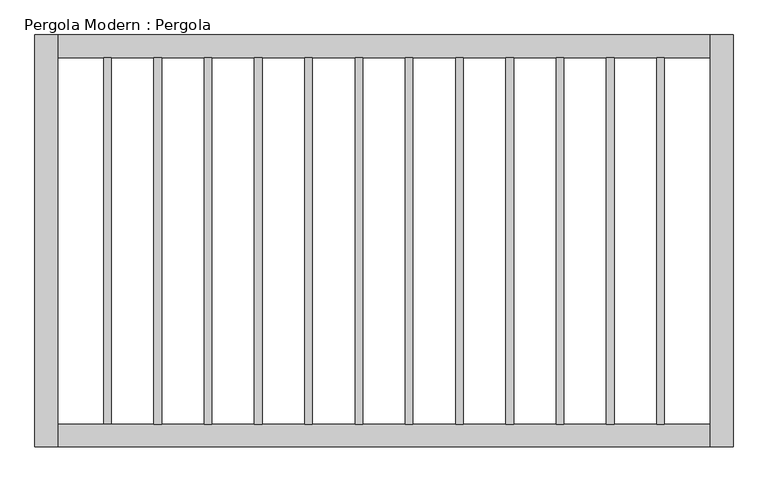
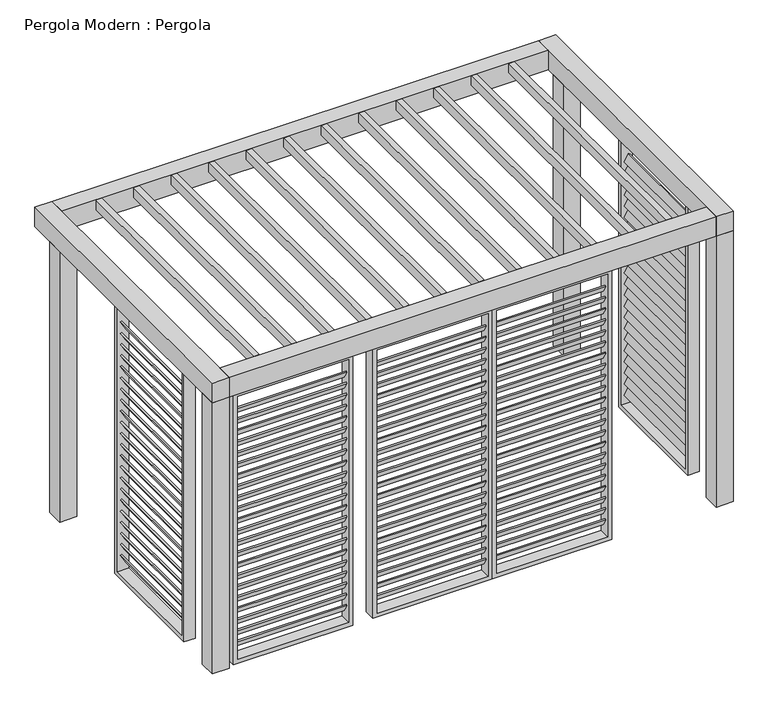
"""IFC4 building model written with IfcOpenShell, lengths in millimetres: proxy geometry, Pergola Modern : Pergola."""

from ifc_helpers import new_model, si_unit, frame, origin, origin_with_axes, place, context, project, spatial, polyline, outline, extrude, source, transform, mapped, element, save


def pergola_modern_pergola_2576f8b5(model_context):
    return source(origin(), model_context, "Body", "SweptSolid", [
        extrude(outline(polyline([(0.0, -12.7), (0.0, 0.0), (990.6, 0.0), (990.6, -12.7), (0.0, -12.7)])), frame((2223.3507387, -850.9, 2221.1032416), z_axis=(0.4999999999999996, 0.0, 0.8660254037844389), x_axis=(0.0, 1.0, 0.0)), (0.0, 0.0, 1.0), 76.2),
        extrude(outline(polyline([(0.0, -12.7), (0.0, 0.0), (990.6, 0.0), (990.6, -12.7), (0.0, -12.7)])), frame((2223.3507387, -850.9, 2116.1770512), z_axis=(0.4999999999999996, 0.0, 0.8660254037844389), x_axis=(0.0, 1.0, 0.0)), (0.0, 0.0, 1.0), 76.2),
        extrude(outline(polyline([(0.0, -12.7), (0.0, 0.0), (990.6, 0.0), (990.6, -12.7), (0.0, -12.7)])), frame((2223.3507387, -850.9, 2011.2508607), z_axis=(0.4999999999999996, 0.0, 0.8660254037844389), x_axis=(0.0, 1.0, 0.0)), (0.0, 0.0, 1.0), 76.2),
        extrude(outline(polyline([(0.0, -12.7), (0.0, 0.0), (990.6, 0.0), (990.6, -12.7), (0.0, -12.7)])), frame((2223.3507387, -850.9, 1906.3246702), z_axis=(0.4999999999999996, 0.0, 0.8660254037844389), x_axis=(0.0, 1.0, 0.0)), (0.0, 0.0, 1.0), 76.2),
        extrude(outline(polyline([(0.0, -12.7), (0.0, 0.0), (990.6, 0.0), (990.6, -12.7), (0.0, -12.7)])), frame((2223.3507387, -850.9, 1801.3984797), z_axis=(0.4999999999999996, 0.0, 0.8660254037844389), x_axis=(0.0, 1.0, 0.0)), (0.0, 0.0, 1.0), 76.2),
        extrude(outline(polyline([(0.0, -12.7), (0.0, 0.0), (990.6, 0.0), (990.6, -12.7), (0.0, -12.7)])), frame((2223.3507387, -850.9, 1696.4722893), z_axis=(0.4999999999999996, 0.0, 0.8660254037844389), x_axis=(0.0, 1.0, 0.0)), (0.0, 0.0, 1.0), 76.2),
        extrude(outline(polyline([(0.0, -12.7), (0.0, 0.0), (990.6, 0.0), (990.6, -12.7), (0.0, -12.7)])), frame((2223.3507387, -850.9, 1591.5460988), z_axis=(0.4999999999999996, 0.0, 0.8660254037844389), x_axis=(0.0, 1.0, 0.0)), (0.0, 0.0, 1.0), 76.2),
        extrude(outline(polyline([(0.0, -12.7), (0.0, 0.0), (990.6, 0.0), (990.6, -12.7), (0.0, -12.7)])), frame((2223.3507387, -850.9, 1486.6199083), z_axis=(0.4999999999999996, 0.0, 0.8660254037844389), x_axis=(0.0, 1.0, 0.0)), (0.0, 0.0, 1.0), 76.2),
        extrude(outline(polyline([(0.0, -12.7), (0.0, 0.0), (990.6, 0.0), (990.6, -12.7), (0.0, -12.7)])), frame((2223.3507387, -850.9, 1381.6937178), z_axis=(0.4999999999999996, 0.0, 0.8660254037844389), x_axis=(0.0, 1.0, 0.0)), (0.0, 0.0, 1.0), 76.2),
        extrude(outline(polyline([(0.0, -12.7), (0.0, 0.0), (990.6, 0.0), (990.6, -12.7), (0.0, -12.7)])), frame((2223.3507387, -850.9, 1276.7675274), z_axis=(0.4999999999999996, 0.0, 0.8660254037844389), x_axis=(0.0, 1.0, 0.0)), (0.0, 0.0, 1.0), 76.2),
        extrude(outline(polyline([(0.0, -12.7), (0.0, 0.0), (990.6, 0.0), (990.6, -12.7), (0.0, -12.7)])), frame((2223.3507387, -850.9, 1171.8413369), z_axis=(0.4999999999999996, 0.0, 0.8660254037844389), x_axis=(0.0, 1.0, 0.0)), (0.0, 0.0, 1.0), 76.2),
        extrude(outline(polyline([(0.0, -12.7), (0.0, 0.0), (990.6, 0.0), (990.6, -12.7), (0.0, -12.7)])), frame((2223.3507387, -850.9, 1066.9151464), z_axis=(0.4999999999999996, 0.0, 0.8660254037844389), x_axis=(0.0, 1.0, 0.0)), (0.0, 0.0, 1.0), 76.2),
        extrude(outline(polyline([(0.0, -12.7), (0.0, 0.0), (990.6, 0.0), (990.6, -12.7), (0.0, -12.7)])), frame((2223.3507387, -850.9, 961.9889559), z_axis=(0.4999999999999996, 0.0, 0.8660254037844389), x_axis=(0.0, 1.0, 0.0)), (0.0, 0.0, 1.0), 76.2),
        extrude(outline(polyline([(0.0, -12.7), (0.0, 0.0), (990.6, 0.0), (990.6, -12.7), (0.0, -12.7)])), frame((2223.3507387, -850.9, 857.0627654), z_axis=(0.4999999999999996, 0.0, 0.8660254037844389), x_axis=(0.0, 1.0, 0.0)), (0.0, 0.0, 1.0), 76.2),
        extrude(outline(polyline([(0.0, -12.7), (0.0, 0.0), (990.6, 0.0), (990.6, -12.7), (0.0, -12.7)])), frame((2223.3507387, -850.9, 752.136575), z_axis=(0.4999999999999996, 0.0, 0.8660254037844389), x_axis=(0.0, 1.0, 0.0)), (0.0, 0.0, 1.0), 76.2),
        extrude(outline(polyline([(0.0, -12.7), (0.0, 0.0), (990.6, 0.0), (990.6, -12.7), (0.0, -12.7)])), frame((2223.3507387, -850.9, 647.2103845), z_axis=(0.4999999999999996, 0.0, 0.8660254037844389), x_axis=(0.0, 1.0, 0.0)), (0.0, 0.0, 1.0), 76.2),
        extrude(outline(polyline([(0.0, -12.7), (0.0, 0.0), (990.6, 0.0), (990.6, -12.7), (0.0, -12.7)])), frame((2223.3507387, -850.9, 542.284194), z_axis=(0.4999999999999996, 0.0, 0.8660254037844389), x_axis=(0.0, 1.0, 0.0)), (0.0, 0.0, 1.0), 76.2),
        extrude(outline(polyline([(0.0, -12.7), (0.0, 0.0), (990.6, 0.0), (990.6, -12.7), (0.0, -12.7)])), frame((2223.3507387, -850.9, 437.3580035), z_axis=(0.4999999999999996, 0.0, 0.8660254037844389), x_axis=(0.0, 1.0, 0.0)), (0.0, 0.0, 1.0), 76.2),
        extrude(outline(polyline([(0.0, -12.7), (0.0, 0.0), (990.6, 0.0), (990.6, -12.7), (0.0, -12.7)])), frame((2223.3507387, -850.9, 332.4318131), z_axis=(0.4999999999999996, 0.0, 0.8660254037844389), x_axis=(0.0, 1.0, 0.0)), (0.0, 0.0, 1.0), 76.2),
        extrude(outline(polyline([(0.0, -12.7), (0.0, 0.0), (990.6, 0.0), (990.6, -12.7), (0.0, -12.7)])), frame((2223.3507387, -850.9, 227.5056226), z_axis=(0.4999999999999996, 0.0, 0.8660254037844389), x_axis=(0.0, 1.0, 0.0)), (0.0, 0.0, 1.0), 76.2),
        extrude(outline(polyline([(0.0, -12.7), (0.0, 0.0), (990.6, 0.0), (990.6, -12.7), (0.0, -12.7)])), frame((2223.3507387, -850.9, 2326.0294321), z_axis=(0.4999999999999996, 0.0, 0.8660254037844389), x_axis=(0.0, 1.0, 0.0)), (0.0, 0.0, 1.0), 76.2),
        extrude(outline(polyline([(0.0, -12.7), (0.0, 0.0), (990.6, 0.0), (990.6, -12.7), (0.0, -12.7)])), frame((2223.3507387, -850.9, 122.5794321), z_axis=(0.4999999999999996, 0.0, 0.8660254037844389), x_axis=(0.0, 1.0, 0.0)), (0.0, 0.0, 1.0), 76.2),
        extrude(outline(polyline([(-889.0, 2559.05), (177.8, 2559.05), (177.8, 0.0), (-889.0, 0.0), (-889.0, 2559.05)]), holes=[polyline([(-850.9, 38.1), (139.7, 38.1), (139.7, 2520.95), (-850.9, 2520.95), (-850.9, 38.1)])]), frame((2197.1, 0.0, 0.0), z_axis=(1.0, 0.0, 0.0), x_axis=(0.0, 1.0, 0.0)), (0.0, 0.0, 1.0), 101.6),
        extrude(outline(polyline([(0.0, -12.7), (0.0, 0.0), (990.6, 0.0), (990.6, -12.7), (0.0, -12.7)])), frame((-2223.3507387, 139.7, 2221.1032416), z_axis=(-0.4999999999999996, 0.0, 0.8660254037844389), x_axis=(0.0, -1.0, 0.0)), (0.0, 0.0, 1.0), 76.2),
        extrude(outline(polyline([(0.0, -12.7), (0.0, 0.0), (990.6, 0.0), (990.6, -12.7), (0.0, -12.7)])), frame((-2223.3507387, 139.7, 2116.1770512), z_axis=(-0.4999999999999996, 0.0, 0.8660254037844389), x_axis=(0.0, -1.0, 0.0)), (0.0, 0.0, 1.0), 76.2),
        extrude(outline(polyline([(0.0, -12.7), (0.0, 0.0), (990.6, 0.0), (990.6, -12.7), (0.0, -12.7)])), frame((-2223.3507387, 139.7, 2011.2508607), z_axis=(-0.4999999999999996, 0.0, 0.8660254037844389), x_axis=(0.0, -1.0, 0.0)), (0.0, 0.0, 1.0), 76.2),
        extrude(outline(polyline([(0.0, -12.7), (0.0, 0.0), (990.6, 0.0), (990.6, -12.7), (0.0, -12.7)])), frame((-2223.3507387, 139.7, 1906.3246702), z_axis=(-0.4999999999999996, 0.0, 0.8660254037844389), x_axis=(0.0, -1.0, 0.0)), (0.0, 0.0, 1.0), 76.2),
        extrude(outline(polyline([(0.0, -12.7), (0.0, 0.0), (990.6, 0.0), (990.6, -12.7), (0.0, -12.7)])), frame((-2223.3507387, 139.7, 1801.3984797), z_axis=(-0.4999999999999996, 0.0, 0.8660254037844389), x_axis=(0.0, -1.0, 0.0)), (0.0, 0.0, 1.0), 76.2),
        extrude(outline(polyline([(0.0, -12.7), (0.0, 0.0), (990.6, 0.0), (990.6, -12.7), (0.0, -12.7)])), frame((-2223.3507387, 139.7, 1696.4722893), z_axis=(-0.4999999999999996, 0.0, 0.8660254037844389), x_axis=(0.0, -1.0, 0.0)), (0.0, 0.0, 1.0), 76.2),
        extrude(outline(polyline([(0.0, -12.7), (0.0, 0.0), (990.6, 0.0), (990.6, -12.7), (0.0, -12.7)])), frame((-2223.3507387, 139.7, 1591.5460988), z_axis=(-0.4999999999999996, 0.0, 0.8660254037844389), x_axis=(0.0, -1.0, 0.0)), (0.0, 0.0, 1.0), 76.2),
        extrude(outline(polyline([(0.0, -12.7), (0.0, 0.0), (990.6, 0.0), (990.6, -12.7), (0.0, -12.7)])), frame((-2223.3507387, 139.7, 1486.6199083), z_axis=(-0.4999999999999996, 0.0, 0.8660254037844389), x_axis=(0.0, -1.0, 0.0)), (0.0, 0.0, 1.0), 76.2),
        extrude(outline(polyline([(0.0, -12.7), (0.0, 0.0), (990.6, 0.0), (990.6, -12.7), (0.0, -12.7)])), frame((-2223.3507387, 139.7, 1381.6937178), z_axis=(-0.4999999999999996, 0.0, 0.8660254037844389), x_axis=(0.0, -1.0, 0.0)), (0.0, 0.0, 1.0), 76.2),
        extrude(outline(polyline([(0.0, -12.7), (0.0, 0.0), (990.6, 0.0), (990.6, -12.7), (0.0, -12.7)])), frame((-2223.3507387, 139.7, 1276.7675274), z_axis=(-0.4999999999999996, 0.0, 0.8660254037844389), x_axis=(0.0, -1.0, 0.0)), (0.0, 0.0, 1.0), 76.2),
        extrude(outline(polyline([(0.0, -12.7), (0.0, 0.0), (990.6, 0.0), (990.6, -12.7), (0.0, -12.7)])), frame((-2223.3507387, 139.7, 1171.8413369), z_axis=(-0.4999999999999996, 0.0, 0.8660254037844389), x_axis=(0.0, -1.0, 0.0)), (0.0, 0.0, 1.0), 76.2),
        extrude(outline(polyline([(0.0, -12.7), (0.0, 0.0), (990.6, 0.0), (990.6, -12.7), (0.0, -12.7)])), frame((-2223.3507387, 139.7, 1066.9151464), z_axis=(-0.4999999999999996, 0.0, 0.8660254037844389), x_axis=(0.0, -1.0, 0.0)), (0.0, 0.0, 1.0), 76.2),
        extrude(outline(polyline([(0.0, -12.7), (0.0, 0.0), (990.6, 0.0), (990.6, -12.7), (0.0, -12.7)])), frame((-2223.3507387, 139.7, 961.9889559), z_axis=(-0.4999999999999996, 0.0, 0.8660254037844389), x_axis=(0.0, -1.0, 0.0)), (0.0, 0.0, 1.0), 76.2),
        extrude(outline(polyline([(0.0, -12.7), (0.0, 0.0), (990.6, 0.0), (990.6, -12.7), (0.0, -12.7)])), frame((-2223.3507387, 139.7, 857.0627654), z_axis=(-0.4999999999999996, 0.0, 0.8660254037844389), x_axis=(0.0, -1.0, 0.0)), (0.0, 0.0, 1.0), 76.2),
        extrude(outline(polyline([(0.0, -12.7), (0.0, 0.0), (990.6, 0.0), (990.6, -12.7), (0.0, -12.7)])), frame((-2223.3507387, 139.7, 752.136575), z_axis=(-0.4999999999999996, 0.0, 0.8660254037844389), x_axis=(0.0, -1.0, 0.0)), (0.0, 0.0, 1.0), 76.2),
        extrude(outline(polyline([(0.0, -12.7), (0.0, 0.0), (990.6, 0.0), (990.6, -12.7), (0.0, -12.7)])), frame((-2223.3507387, 139.7, 647.2103845), z_axis=(-0.4999999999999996, 0.0, 0.8660254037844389), x_axis=(0.0, -1.0, 0.0)), (0.0, 0.0, 1.0), 76.2),
        extrude(outline(polyline([(0.0, -12.7), (0.0, 0.0), (990.6, 0.0), (990.6, -12.7), (0.0, -12.7)])), frame((-2223.3507387, 139.7, 542.284194), z_axis=(-0.4999999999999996, 0.0, 0.8660254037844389), x_axis=(0.0, -1.0, 0.0)), (0.0, 0.0, 1.0), 76.2),
        extrude(outline(polyline([(0.0, -12.7), (0.0, 0.0), (990.6, 0.0), (990.6, -12.7), (0.0, -12.7)])), frame((-2223.3507387, 139.7, 437.3580035), z_axis=(-0.4999999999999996, 0.0, 0.8660254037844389), x_axis=(0.0, -1.0, 0.0)), (0.0, 0.0, 1.0), 76.2),
        extrude(outline(polyline([(0.0, -12.7), (0.0, 0.0), (990.6, 0.0), (990.6, -12.7), (0.0, -12.7)])), frame((-2223.3507387, 139.7, 332.4318131), z_axis=(-0.4999999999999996, 0.0, 0.8660254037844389), x_axis=(0.0, -1.0, 0.0)), (0.0, 0.0, 1.0), 76.2),
        extrude(outline(polyline([(0.0, -12.7), (0.0, 0.0), (990.6, 0.0), (990.6, -12.7), (0.0, -12.7)])), frame((-2223.3507387, 139.7, 227.5056226), z_axis=(-0.4999999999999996, 0.0, 0.8660254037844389), x_axis=(0.0, -1.0, 0.0)), (0.0, 0.0, 1.0), 76.2),
        extrude(outline(polyline([(0.0, -12.7), (0.0, 0.0), (990.6, 0.0), (990.6, -12.7), (0.0, -12.7)])), frame((-2223.3507387, 139.7, 2326.0294321), z_axis=(-0.4999999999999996, 0.0, 0.8660254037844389), x_axis=(0.0, -1.0, 0.0)), (0.0, 0.0, 1.0), 76.2),
        extrude(outline(polyline([(0.0, -12.7), (0.0, 0.0), (990.6, 0.0), (990.6, -12.7), (0.0, -12.7)])), frame((-2223.3507387, 139.7, 122.5794321), z_axis=(-0.4999999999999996, 0.0, 0.8660254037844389), x_axis=(0.0, -1.0, 0.0)), (0.0, 0.0, 1.0), 76.2),
        extrude(outline(polyline([(177.8, 0.0), (-889.0, 0.0), (-889.0, 2559.05), (177.8, 2559.05), (177.8, 0.0)]), holes=[polyline([(139.7, 2520.95), (-850.9, 2520.95), (-850.9, 38.1), (139.7, 38.1), (139.7, 2520.95)])]), frame((-2298.7, 0.0, 0.0), z_axis=(1.0, 0.0, 0.0), x_axis=(0.0, 1.0, 0.0)), (0.0, 0.0, 1.0), 101.6),
        extrude(outline(polyline([(0.0, 12.7), (990.6, 12.7), (990.6, 0.0), (0.0, 0.0), (0.0, 12.7)])), frame((1219.2, -1270.8507387, 2221.1032416), z_axis=(0.0, -0.4999999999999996, 0.8660254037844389), x_axis=(-1.0, 0.0, 0.0)), (0.0, 0.0, 1.0), 76.2),
        extrude(outline(polyline([(0.0, 12.7), (990.6, 12.7), (990.6, 0.0), (0.0, 0.0), (0.0, 12.7)])), frame((1219.2, -1270.8507387, 2116.1770512), z_axis=(0.0, -0.4999999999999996, 0.8660254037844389), x_axis=(-1.0, 0.0, 0.0)), (0.0, 0.0, 1.0), 76.2),
        extrude(outline(polyline([(0.0, 12.7), (990.6, 12.7), (990.6, 0.0), (0.0, 0.0), (0.0, 12.7)])), frame((1219.2, -1270.8507387, 2011.2508607), z_axis=(0.0, -0.4999999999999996, 0.8660254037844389), x_axis=(-1.0, 0.0, 0.0)), (0.0, 0.0, 1.0), 76.2),
        extrude(outline(polyline([(0.0, 12.7), (990.6, 12.7), (990.6, 0.0), (0.0, 0.0), (0.0, 12.7)])), frame((1219.2, -1270.8507387, 1906.3246702), z_axis=(0.0, -0.4999999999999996, 0.8660254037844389), x_axis=(-1.0, 0.0, 0.0)), (0.0, 0.0, 1.0), 76.2),
        extrude(outline(polyline([(0.0, 12.7), (990.6, 12.7), (990.6, 0.0), (0.0, 0.0), (0.0, 12.7)])), frame((1219.2, -1270.8507387, 1801.3984797), z_axis=(0.0, -0.4999999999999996, 0.8660254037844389), x_axis=(-1.0, 0.0, 0.0)), (0.0, 0.0, 1.0), 76.2),
        extrude(outline(polyline([(0.0, 12.7), (990.6, 12.7), (990.6, 0.0), (0.0, 0.0), (0.0, 12.7)])), frame((1219.2, -1270.8507387, 1696.4722893), z_axis=(0.0, -0.4999999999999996, 0.8660254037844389), x_axis=(-1.0, 0.0, 0.0)), (0.0, 0.0, 1.0), 76.2),
        extrude(outline(polyline([(0.0, 12.7), (990.6, 12.7), (990.6, 0.0), (0.0, 0.0), (0.0, 12.7)])), frame((1219.2, -1270.8507387, 1591.5460988), z_axis=(0.0, -0.4999999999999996, 0.8660254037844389), x_axis=(-1.0, 0.0, 0.0)), (0.0, 0.0, 1.0), 76.2),
        extrude(outline(polyline([(0.0, 12.7), (990.6, 12.7), (990.6, 0.0), (0.0, 0.0), (0.0, 12.7)])), frame((1219.2, -1270.8507387, 1486.6199083), z_axis=(0.0, -0.4999999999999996, 0.8660254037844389), x_axis=(-1.0, 0.0, 0.0)), (0.0, 0.0, 1.0), 76.2),
        extrude(outline(polyline([(0.0, 12.7), (990.6, 12.7), (990.6, 0.0), (0.0, 0.0), (0.0, 12.7)])), frame((1219.2, -1270.8507387, 1381.6937178), z_axis=(0.0, -0.4999999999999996, 0.8660254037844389), x_axis=(-1.0, 0.0, 0.0)), (0.0, 0.0, 1.0), 76.2),
        extrude(outline(polyline([(0.0, 12.7), (990.6, 12.7), (990.6, 0.0), (0.0, 0.0), (0.0, 12.7)])), frame((1219.2, -1270.8507387, 1276.7675274), z_axis=(0.0, -0.4999999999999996, 0.8660254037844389), x_axis=(-1.0, 0.0, 0.0)), (0.0, 0.0, 1.0), 76.2),
        extrude(outline(polyline([(0.0, 12.7), (990.6, 12.7), (990.6, 0.0), (0.0, 0.0), (0.0, 12.7)])), frame((1219.2, -1270.8507387, 1171.8413369), z_axis=(0.0, -0.4999999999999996, 0.8660254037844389), x_axis=(-1.0, 0.0, 0.0)), (0.0, 0.0, 1.0), 76.2),
        extrude(outline(polyline([(0.0, 12.7), (990.6, 12.7), (990.6, 0.0), (0.0, 0.0), (0.0, 12.7)])), frame((1219.2, -1270.8507387, 1066.9151464), z_axis=(0.0, -0.4999999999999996, 0.8660254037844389), x_axis=(-1.0, 0.0, 0.0)), (0.0, 0.0, 1.0), 76.2),
        extrude(outline(polyline([(0.0, 12.7), (990.6, 12.7), (990.6, 0.0), (0.0, 0.0), (0.0, 12.7)])), frame((1219.2, -1270.8507387, 961.9889559), z_axis=(0.0, -0.4999999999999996, 0.8660254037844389), x_axis=(-1.0, 0.0, 0.0)), (0.0, 0.0, 1.0), 76.2),
        extrude(outline(polyline([(0.0, 12.7), (990.6, 12.7), (990.6, 0.0), (0.0, 0.0), (0.0, 12.7)])), frame((1219.2, -1270.8507387, 857.0627654), z_axis=(0.0, -0.4999999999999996, 0.8660254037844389), x_axis=(-1.0, 0.0, 0.0)), (0.0, 0.0, 1.0), 76.2),
        extrude(outline(polyline([(0.0, 12.7), (990.6, 12.7), (990.6, 0.0), (0.0, 0.0), (0.0, 12.7)])), frame((1219.2, -1270.8507387, 752.136575), z_axis=(0.0, -0.4999999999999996, 0.8660254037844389), x_axis=(-1.0, 0.0, 0.0)), (0.0, 0.0, 1.0), 76.2),
        extrude(outline(polyline([(0.0, 12.7), (990.6, 12.7), (990.6, 0.0), (0.0, 0.0), (0.0, 12.7)])), frame((1219.2, -1270.8507387, 647.2103845), z_axis=(0.0, -0.4999999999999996, 0.8660254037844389), x_axis=(-1.0, 0.0, 0.0)), (0.0, 0.0, 1.0), 76.2),
        extrude(outline(polyline([(0.0, 12.7), (990.6, 12.7), (990.6, 0.0), (0.0, 0.0), (0.0, 12.7)])), frame((1219.2, -1270.8507387, 542.284194), z_axis=(0.0, -0.4999999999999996, 0.8660254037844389), x_axis=(-1.0, 0.0, 0.0)), (0.0, 0.0, 1.0), 76.2),
        extrude(outline(polyline([(0.0, 12.7), (990.6, 12.7), (990.6, 0.0), (0.0, 0.0), (0.0, 12.7)])), frame((1219.2, -1270.8507387, 437.3580035), z_axis=(0.0, -0.4999999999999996, 0.8660254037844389), x_axis=(-1.0, 0.0, 0.0)), (0.0, 0.0, 1.0), 76.2),
        extrude(outline(polyline([(0.0, 12.7), (990.6, 12.7), (990.6, 0.0), (0.0, 0.0), (0.0, 12.7)])), frame((1219.2, -1270.8507387, 332.4318131), z_axis=(0.0, -0.4999999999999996, 0.8660254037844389), x_axis=(-1.0, 0.0, 0.0)), (0.0, 0.0, 1.0), 76.2),
        extrude(outline(polyline([(0.0, 12.7), (990.6, 12.7), (990.6, 0.0), (0.0, 0.0), (0.0, 12.7)])), frame((1219.2, -1270.8507387, 227.5056226), z_axis=(0.0, -0.4999999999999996, 0.8660254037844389), x_axis=(-1.0, 0.0, 0.0)), (0.0, 0.0, 1.0), 76.2),
        extrude(outline(polyline([(0.0, 12.7), (990.6, 12.7), (990.6, 0.0), (0.0, 0.0), (0.0, 12.7)])), frame((1219.2, -1270.8507387, 2326.0294321), z_axis=(0.0, -0.4999999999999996, 0.8660254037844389), x_axis=(-1.0, 0.0, 0.0)), (0.0, 0.0, 1.0), 76.2),
        extrude(outline(polyline([(0.0, 12.7), (990.6, 12.7), (990.6, 0.0), (0.0, 0.0), (0.0, 12.7)])), frame((1219.2, -1270.8507387, 122.5794321), z_axis=(0.0, -0.4999999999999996, 0.8660254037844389), x_axis=(-1.0, 0.0, 0.0)), (0.0, 0.0, 1.0), 76.2),
        extrude(outline(polyline([(0.0, 1257.3), (2559.05, 1257.3), (2559.05, 190.5), (0.0, 190.5), (0.0, 1257.3)]), holes=[polyline([(2520.95, 1219.2), (38.1, 1219.2), (38.1, 228.6), (2520.95, 228.6), (2520.95, 1219.2)])]), frame((0.0, -1346.2, 0.0), z_axis=(0.0, 1.0, 0.0), x_axis=(0.0, 0.0, 1.0)), (0.0, 0.0, 1.0), 101.6),
        extrude(outline(polyline([(0.0, 12.7), (990.6, 12.7), (990.6, 0.0), (0.0, 0.0), (0.0, 12.7)])), frame((152.4, -1270.8507387, 2221.1032416), z_axis=(0.0, -0.4999999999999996, 0.8660254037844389), x_axis=(-1.0, 0.0, 0.0)), (0.0, 0.0, 1.0), 76.2),
        extrude(outline(polyline([(0.0, 12.7), (990.6, 12.7), (990.6, 0.0), (0.0, 0.0), (0.0, 12.7)])), frame((152.4, -1270.8507387, 2116.1770512), z_axis=(0.0, -0.4999999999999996, 0.8660254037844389), x_axis=(-1.0, 0.0, 0.0)), (0.0, 0.0, 1.0), 76.2),
        extrude(outline(polyline([(0.0, 12.7), (990.6, 12.7), (990.6, 0.0), (0.0, 0.0), (0.0, 12.7)])), frame((152.4, -1270.8507387, 2011.2508607), z_axis=(0.0, -0.4999999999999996, 0.8660254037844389), x_axis=(-1.0, 0.0, 0.0)), (0.0, 0.0, 1.0), 76.2),
        extrude(outline(polyline([(0.0, 12.7), (990.6, 12.7), (990.6, 0.0), (0.0, 0.0), (0.0, 12.7)])), frame((152.4, -1270.8507387, 1906.3246702), z_axis=(0.0, -0.4999999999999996, 0.8660254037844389), x_axis=(-1.0, 0.0, 0.0)), (0.0, 0.0, 1.0), 76.2),
        extrude(outline(polyline([(0.0, 12.7), (990.6, 12.7), (990.6, 0.0), (0.0, 0.0), (0.0, 12.7)])), frame((152.4, -1270.8507387, 1801.3984797), z_axis=(0.0, -0.4999999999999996, 0.8660254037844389), x_axis=(-1.0, 0.0, 0.0)), (0.0, 0.0, 1.0), 76.2),
        extrude(outline(polyline([(0.0, 12.7), (990.6, 12.7), (990.6, 0.0), (0.0, 0.0), (0.0, 12.7)])), frame((152.4, -1270.8507387, 1696.4722893), z_axis=(0.0, -0.4999999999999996, 0.8660254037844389), x_axis=(-1.0, 0.0, 0.0)), (0.0, 0.0, 1.0), 76.2),
        extrude(outline(polyline([(0.0, 12.7), (990.6, 12.7), (990.6, 0.0), (0.0, 0.0), (0.0, 12.7)])), frame((152.4, -1270.8507387, 1591.5460988), z_axis=(0.0, -0.4999999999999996, 0.8660254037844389), x_axis=(-1.0, 0.0, 0.0)), (0.0, 0.0, 1.0), 76.2),
        extrude(outline(polyline([(0.0, 12.7), (990.6, 12.7), (990.6, 0.0), (0.0, 0.0), (0.0, 12.7)])), frame((152.4, -1270.8507387, 1486.6199083), z_axis=(0.0, -0.4999999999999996, 0.8660254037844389), x_axis=(-1.0, 0.0, 0.0)), (0.0, 0.0, 1.0), 76.2),
        extrude(outline(polyline([(0.0, 12.7), (990.6, 12.7), (990.6, 0.0), (0.0, 0.0), (0.0, 12.7)])), frame((152.4, -1270.8507387, 1381.6937178), z_axis=(0.0, -0.4999999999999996, 0.8660254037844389), x_axis=(-1.0, 0.0, 0.0)), (0.0, 0.0, 1.0), 76.2),
        extrude(outline(polyline([(0.0, 12.7), (990.6, 12.7), (990.6, 0.0), (0.0, 0.0), (0.0, 12.7)])), frame((152.4, -1270.8507387, 1276.7675274), z_axis=(0.0, -0.4999999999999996, 0.8660254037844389), x_axis=(-1.0, 0.0, 0.0)), (0.0, 0.0, 1.0), 76.2),
        extrude(outline(polyline([(0.0, 12.7), (990.6, 12.7), (990.6, 0.0), (0.0, 0.0), (0.0, 12.7)])), frame((152.4, -1270.8507387, 1171.8413369), z_axis=(0.0, -0.4999999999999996, 0.8660254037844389), x_axis=(-1.0, 0.0, 0.0)), (0.0, 0.0, 1.0), 76.2),
        extrude(outline(polyline([(0.0, 12.7), (990.6, 12.7), (990.6, 0.0), (0.0, 0.0), (0.0, 12.7)])), frame((152.4, -1270.8507387, 1066.9151464), z_axis=(0.0, -0.4999999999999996, 0.8660254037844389), x_axis=(-1.0, 0.0, 0.0)), (0.0, 0.0, 1.0), 76.2),
        extrude(outline(polyline([(0.0, 12.7), (990.6, 12.7), (990.6, 0.0), (0.0, 0.0), (0.0, 12.7)])), frame((152.4, -1270.8507387, 961.9889559), z_axis=(0.0, -0.4999999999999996, 0.8660254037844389), x_axis=(-1.0, 0.0, 0.0)), (0.0, 0.0, 1.0), 76.2),
        extrude(outline(polyline([(0.0, 12.7), (990.6, 12.7), (990.6, 0.0), (0.0, 0.0), (0.0, 12.7)])), frame((152.4, -1270.8507387, 857.0627654), z_axis=(0.0, -0.4999999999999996, 0.8660254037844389), x_axis=(-1.0, 0.0, 0.0)), (0.0, 0.0, 1.0), 76.2),
        extrude(outline(polyline([(0.0, 12.7), (990.6, 12.7), (990.6, 0.0), (0.0, 0.0), (0.0, 12.7)])), frame((152.4, -1270.8507387, 752.136575), z_axis=(0.0, -0.4999999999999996, 0.8660254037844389), x_axis=(-1.0, 0.0, 0.0)), (0.0, 0.0, 1.0), 76.2),
        extrude(outline(polyline([(0.0, 12.7), (990.6, 12.7), (990.6, 0.0), (0.0, 0.0), (0.0, 12.7)])), frame((152.4, -1270.8507387, 647.2103845), z_axis=(0.0, -0.4999999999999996, 0.8660254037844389), x_axis=(-1.0, 0.0, 0.0)), (0.0, 0.0, 1.0), 76.2),
        extrude(outline(polyline([(0.0, 12.7), (990.6, 12.7), (990.6, 0.0), (0.0, 0.0), (0.0, 12.7)])), frame((152.4, -1270.8507387, 542.284194), z_axis=(0.0, -0.4999999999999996, 0.8660254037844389), x_axis=(-1.0, 0.0, 0.0)), (0.0, 0.0, 1.0), 76.2),
        extrude(outline(polyline([(0.0, 12.7), (990.6, 12.7), (990.6, 0.0), (0.0, 0.0), (0.0, 12.7)])), frame((152.4, -1270.8507387, 437.3580035), z_axis=(0.0, -0.4999999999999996, 0.8660254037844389), x_axis=(-1.0, 0.0, 0.0)), (0.0, 0.0, 1.0), 76.2),
        extrude(outline(polyline([(0.0, 12.7), (990.6, 12.7), (990.6, 0.0), (0.0, 0.0), (0.0, 12.7)])), frame((152.4, -1270.8507387, 332.4318131), z_axis=(0.0, -0.4999999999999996, 0.8660254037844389), x_axis=(-1.0, 0.0, 0.0)), (0.0, 0.0, 1.0), 76.2),
        extrude(outline(polyline([(0.0, 12.7), (990.6, 12.7), (990.6, 0.0), (0.0, 0.0), (0.0, 12.7)])), frame((152.4, -1270.8507387, 227.5056226), z_axis=(0.0, -0.4999999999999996, 0.8660254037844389), x_axis=(-1.0, 0.0, 0.0)), (0.0, 0.0, 1.0), 76.2),
        extrude(outline(polyline([(0.0, 12.7), (990.6, 12.7), (990.6, 0.0), (0.0, 0.0), (0.0, 12.7)])), frame((152.4, -1270.8507387, 2326.0294321), z_axis=(0.0, -0.4999999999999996, 0.8660254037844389), x_axis=(-1.0, 0.0, 0.0)), (0.0, 0.0, 1.0), 76.2),
        extrude(outline(polyline([(0.0, 12.7), (990.6, 12.7), (990.6, 0.0), (0.0, 0.0), (0.0, 12.7)])), frame((152.4, -1270.8507387, 122.5794321), z_axis=(0.0, -0.4999999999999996, 0.8660254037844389), x_axis=(-1.0, 0.0, 0.0)), (0.0, 0.0, 1.0), 76.2),
        extrude(outline(polyline([(0.0, 190.5), (2559.05, 190.5), (2559.05, -876.3), (0.0, -876.3), (0.0, 190.5)]), holes=[polyline([(2520.95, 152.4), (38.1, 152.4), (38.1, -838.2), (2520.95, -838.2), (2520.95, 152.4)])]), frame((0.0, -1346.2, 0.0), z_axis=(0.0, 1.0, 0.0), x_axis=(0.0, 0.0, 1.0)), (0.0, 0.0, 1.0), 101.6),
        extrude(outline(polyline([(0.0, 12.7), (990.6, 12.7), (990.6, 0.0), (0.0, 0.0), (0.0, 12.7)])), frame((-1092.2, -1270.8507387, 2221.1032416), z_axis=(0.0, -0.4999999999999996, 0.8660254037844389), x_axis=(-1.0, 0.0, 0.0)), (0.0, 0.0, 1.0), 76.2),
        extrude(outline(polyline([(0.0, 12.7), (990.6, 12.7), (990.6, 0.0), (0.0, 0.0), (0.0, 12.7)])), frame((-1092.2, -1270.8507387, 2116.1770512), z_axis=(0.0, -0.4999999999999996, 0.8660254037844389), x_axis=(-1.0, 0.0, 0.0)), (0.0, 0.0, 1.0), 76.2),
        extrude(outline(polyline([(0.0, 12.7), (990.6, 12.7), (990.6, 0.0), (0.0, 0.0), (0.0, 12.7)])), frame((-1092.2, -1270.8507387, 2011.2508607), z_axis=(0.0, -0.4999999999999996, 0.8660254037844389), x_axis=(-1.0, 0.0, 0.0)), (0.0, 0.0, 1.0), 76.2),
        extrude(outline(polyline([(0.0, 12.7), (990.6, 12.7), (990.6, 0.0), (0.0, 0.0), (0.0, 12.7)])), frame((-1092.2, -1270.8507387, 1906.3246702), z_axis=(0.0, -0.4999999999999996, 0.8660254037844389), x_axis=(-1.0, 0.0, 0.0)), (0.0, 0.0, 1.0), 76.2),
        extrude(outline(polyline([(0.0, 12.7), (990.6, 12.7), (990.6, 0.0), (0.0, 0.0), (0.0, 12.7)])), frame((-1092.2, -1270.8507387, 1801.3984797), z_axis=(0.0, -0.4999999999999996, 0.8660254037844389), x_axis=(-1.0, 0.0, 0.0)), (0.0, 0.0, 1.0), 76.2),
        extrude(outline(polyline([(0.0, 12.7), (990.6, 12.7), (990.6, 0.0), (0.0, 0.0), (0.0, 12.7)])), frame((-1092.2, -1270.8507387, 1696.4722893), z_axis=(0.0, -0.4999999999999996, 0.8660254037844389), x_axis=(-1.0, 0.0, 0.0)), (0.0, 0.0, 1.0), 76.2),
        extrude(outline(polyline([(0.0, 12.7), (990.6, 12.7), (990.6, 0.0), (0.0, 0.0), (0.0, 12.7)])), frame((-1092.2, -1270.8507387, 1591.5460988), z_axis=(0.0, -0.4999999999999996, 0.8660254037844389), x_axis=(-1.0, 0.0, 0.0)), (0.0, 0.0, 1.0), 76.2),
        extrude(outline(polyline([(0.0, 12.7), (990.6, 12.7), (990.6, 0.0), (0.0, 0.0), (0.0, 12.7)])), frame((-1092.2, -1270.8507387, 1486.6199083), z_axis=(0.0, -0.4999999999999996, 0.8660254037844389), x_axis=(-1.0, 0.0, 0.0)), (0.0, 0.0, 1.0), 76.2),
        extrude(outline(polyline([(0.0, 12.7), (990.6, 12.7), (990.6, 0.0), (0.0, 0.0), (0.0, 12.7)])), frame((-1092.2, -1270.8507387, 1381.6937178), z_axis=(0.0, -0.4999999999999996, 0.8660254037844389), x_axis=(-1.0, 0.0, 0.0)), (0.0, 0.0, 1.0), 76.2),
        extrude(outline(polyline([(0.0, 12.7), (990.6, 12.7), (990.6, 0.0), (0.0, 0.0), (0.0, 12.7)])), frame((-1092.2, -1270.8507387, 1276.7675274), z_axis=(0.0, -0.4999999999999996, 0.8660254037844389), x_axis=(-1.0, 0.0, 0.0)), (0.0, 0.0, 1.0), 76.2),
        extrude(outline(polyline([(0.0, 12.7), (990.6, 12.7), (990.6, 0.0), (0.0, 0.0), (0.0, 12.7)])), frame((-1092.2, -1270.8507387, 1171.8413369), z_axis=(0.0, -0.4999999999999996, 0.8660254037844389), x_axis=(-1.0, 0.0, 0.0)), (0.0, 0.0, 1.0), 76.2),
        extrude(outline(polyline([(0.0, 12.7), (990.6, 12.7), (990.6, 0.0), (0.0, 0.0), (0.0, 12.7)])), frame((-1092.2, -1270.8507387, 1066.9151464), z_axis=(0.0, -0.4999999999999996, 0.8660254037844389), x_axis=(-1.0, 0.0, 0.0)), (0.0, 0.0, 1.0), 76.2),
        extrude(outline(polyline([(0.0, 12.7), (990.6, 12.7), (990.6, 0.0), (0.0, 0.0), (0.0, 12.7)])), frame((-1092.2, -1270.8507387, 961.9889559), z_axis=(0.0, -0.4999999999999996, 0.8660254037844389), x_axis=(-1.0, 0.0, 0.0)), (0.0, 0.0, 1.0), 76.2),
        extrude(outline(polyline([(0.0, 12.7), (990.6, 12.7), (990.6, 0.0), (0.0, 0.0), (0.0, 12.7)])), frame((-1092.2, -1270.8507387, 857.0627654), z_axis=(0.0, -0.4999999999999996, 0.8660254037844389), x_axis=(-1.0, 0.0, 0.0)), (0.0, 0.0, 1.0), 76.2),
        extrude(outline(polyline([(0.0, 12.7), (990.6, 12.7), (990.6, 0.0), (0.0, 0.0), (0.0, 12.7)])), frame((-1092.2, -1270.8507387, 752.136575), z_axis=(0.0, -0.4999999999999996, 0.8660254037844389), x_axis=(-1.0, 0.0, 0.0)), (0.0, 0.0, 1.0), 76.2),
        extrude(outline(polyline([(0.0, 12.7), (990.6, 12.7), (990.6, 0.0), (0.0, 0.0), (0.0, 12.7)])), frame((-1092.2, -1270.8507387, 647.2103845), z_axis=(0.0, -0.4999999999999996, 0.8660254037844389), x_axis=(-1.0, 0.0, 0.0)), (0.0, 0.0, 1.0), 76.2),
        extrude(outline(polyline([(0.0, 12.7), (990.6, 12.7), (990.6, 0.0), (0.0, 0.0), (0.0, 12.7)])), frame((-1092.2, -1270.8507387, 542.284194), z_axis=(0.0, -0.4999999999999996, 0.8660254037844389), x_axis=(-1.0, 0.0, 0.0)), (0.0, 0.0, 1.0), 76.2),
        extrude(outline(polyline([(0.0, 12.7), (990.6, 12.7), (990.6, 0.0), (0.0, 0.0), (0.0, 12.7)])), frame((-1092.2, -1270.8507387, 437.3580035), z_axis=(0.0, -0.4999999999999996, 0.8660254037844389), x_axis=(-1.0, 0.0, 0.0)), (0.0, 0.0, 1.0), 76.2),
        extrude(outline(polyline([(0.0, 12.7), (990.6, 12.7), (990.6, 0.0), (0.0, 0.0), (0.0, 12.7)])), frame((-1092.2, -1270.8507387, 332.4318131), z_axis=(0.0, -0.4999999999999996, 0.8660254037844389), x_axis=(-1.0, 0.0, 0.0)), (0.0, 0.0, 1.0), 76.2),
        extrude(outline(polyline([(0.0, 12.7), (990.6, 12.7), (990.6, 0.0), (0.0, 0.0), (0.0, 12.7)])), frame((-1092.2, -1270.8507387, 227.5056226), z_axis=(0.0, -0.4999999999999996, 0.8660254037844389), x_axis=(-1.0, 0.0, 0.0)), (0.0, 0.0, 1.0), 76.2),
        extrude(outline(polyline([(0.0, 12.7), (990.6, 12.7), (990.6, 0.0), (0.0, 0.0), (0.0, 12.7)])), frame((-1092.2, -1270.8507387, 2326.0294321), z_axis=(0.0, -0.4999999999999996, 0.8660254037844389), x_axis=(-1.0, 0.0, 0.0)), (0.0, 0.0, 1.0), 76.2),
        extrude(outline(polyline([(0.0, 12.7), (990.6, 12.7), (990.6, 0.0), (0.0, 0.0), (0.0, 12.7)])), frame((-1092.2, -1270.8507387, 122.5794321), z_axis=(0.0, -0.4999999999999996, 0.8660254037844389), x_axis=(-1.0, 0.0, 0.0)), (0.0, 0.0, 1.0), 76.2),
        extrude(outline(polyline([(0.0, -1054.1), (2559.05, -1054.1), (2559.05, -2120.9), (0.0, -2120.9), (0.0, -1054.1)]), holes=[polyline([(2520.95, -1092.2), (38.1, -1092.2), (38.1, -2082.8), (2520.95, -2082.8), (2520.95, -1092.2)])]), frame((0.0, -1346.2, 0.0), z_axis=(0.0, 1.0, 0.0), x_axis=(0.0, 0.0, 1.0)), (0.0, 0.0, 1.0), 101.6),
        extrude(outline(polyline([(2171.7, 1371.6), (2324.1, 1371.6), (2324.1, -1371.6), (2171.7, -1371.6), (2171.7, 1371.6)])), frame((0.0, 0.0, 2559.05), z_axis=(0.0, 0.0, 1.0), x_axis=(1.0, 0.0, 0.0)), (0.0, 0.0, 1.0), 184.15),
        extrude(outline(polyline([(-2324.1, 1371.6), (-2171.7, 1371.6), (-2171.7, -1371.6), (-2324.1, -1371.6), (-2324.1, 1371.6)])), frame((0.0, 0.0, 2559.05), z_axis=(0.0, 0.0, 1.0), x_axis=(1.0, 0.0, 0.0)), (0.0, 0.0, 1.0), 184.15),
        extrude(outline(polyline([(1481.2818182, 1219.2), (1532.0818182, 1219.2), (1532.0818182, -1219.2), (1481.2818182, -1219.2), (1481.2818182, 1219.2)])), frame((0.0, 0.0, 2654.3), z_axis=(0.0, 0.0, 1.0), x_axis=(1.0, 0.0, 0.0)), (0.0, 0.0, 1.0), 88.9),
        extrude(outline(polyline([(1146.4636364, 1219.2), (1197.2636364, 1219.2), (1197.2636364, -1219.2), (1146.4636364, -1219.2), (1146.4636364, 1219.2)])), frame((0.0, 0.0, 2654.3), z_axis=(0.0, 0.0, 1.0), x_axis=(1.0, 0.0, 0.0)), (0.0, 0.0, 1.0), 88.9),
        extrude(outline(polyline([(811.6454545, 1219.2), (862.4454545, 1219.2), (862.4454545, -1219.2), (811.6454545, -1219.2), (811.6454545, 1219.2)])), frame((0.0, 0.0, 2654.3), z_axis=(0.0, 0.0, 1.0), x_axis=(1.0, 0.0, 0.0)), (0.0, 0.0, 1.0), 88.9),
        extrude(outline(polyline([(476.8272727, 1219.2), (527.6272727, 1219.2), (527.6272727, -1219.2), (476.8272727, -1219.2), (476.8272727, 1219.2)])), frame((0.0, 0.0, 2654.3), z_axis=(0.0, 0.0, 1.0), x_axis=(1.0, 0.0, 0.0)), (0.0, 0.0, 1.0), 88.9),
        extrude(outline(polyline([(142.0090909, 1219.2), (192.8090909, 1219.2), (192.8090909, -1219.2), (142.0090909, -1219.2), (142.0090909, 1219.2)])), frame((0.0, 0.0, 2654.3), z_axis=(0.0, 0.0, 1.0), x_axis=(1.0, 0.0, 0.0)), (0.0, 0.0, 1.0), 88.9),
        extrude(outline(polyline([(-192.8090909, 1219.2), (-142.0090909, 1219.2), (-142.0090909, -1219.2), (-192.8090909, -1219.2), (-192.8090909, 1219.2)])), frame((0.0, 0.0, 2654.3), z_axis=(0.0, 0.0, 1.0), x_axis=(1.0, 0.0, 0.0)), (0.0, 0.0, 1.0), 88.9),
        extrude(outline(polyline([(-527.6272727, 1219.2), (-476.8272727, 1219.2), (-476.8272727, -1219.2), (-527.6272727, -1219.2), (-527.6272727, 1219.2)])), frame((0.0, 0.0, 2654.3), z_axis=(0.0, 0.0, 1.0), x_axis=(1.0, 0.0, 0.0)), (0.0, 0.0, 1.0), 88.9),
        extrude(outline(polyline([(-862.4454545, 1219.2), (-811.6454545, 1219.2), (-811.6454545, -1219.2), (-862.4454545, -1219.2), (-862.4454545, 1219.2)])), frame((0.0, 0.0, 2654.3), z_axis=(0.0, 0.0, 1.0), x_axis=(1.0, 0.0, 0.0)), (0.0, 0.0, 1.0), 88.9),
        extrude(outline(polyline([(-1197.2636364, 1219.2), (-1146.4636364, 1219.2), (-1146.4636364, -1219.2), (-1197.2636364, -1219.2), (-1197.2636364, 1219.2)])), frame((0.0, 0.0, 2654.3), z_axis=(0.0, 0.0, 1.0), x_axis=(1.0, 0.0, 0.0)), (0.0, 0.0, 1.0), 88.9),
        extrude(outline(polyline([(-1532.0818182, 1219.2), (-1481.2818182, 1219.2), (-1481.2818182, -1219.2), (-1532.0818182, -1219.2), (-1532.0818182, 1219.2)])), frame((0.0, 0.0, 2654.3), z_axis=(0.0, 0.0, 1.0), x_axis=(1.0, 0.0, 0.0)), (0.0, 0.0, 1.0), 88.9),
        extrude(outline(polyline([(1816.1, 1219.2), (1866.9, 1219.2), (1866.9, -1219.2), (1816.1, -1219.2), (1816.1, 1219.2)])), frame((0.0, 0.0, 2654.3), z_axis=(0.0, 0.0, 1.0), x_axis=(1.0, 0.0, 0.0)), (0.0, 0.0, 1.0), 88.9),
        extrude(outline(polyline([(2171.7, -1219.2), (2171.7, -1371.6), (-2171.7, -1371.6), (-2171.7, -1219.2), (2171.7, -1219.2)])), frame((0.0, 0.0, 2559.05), z_axis=(0.0, 0.0, 1.0), x_axis=(1.0, 0.0, 0.0)), (0.0, 0.0, 1.0), 184.15),
        extrude(outline(polyline([(-1866.9, 1219.2), (-1816.1, 1219.2), (-1816.1, -1219.2), (-1866.9, -1219.2), (-1866.9, 1219.2)])), frame((0.0, 0.0, 2654.3), z_axis=(0.0, 0.0, 1.0), x_axis=(1.0, 0.0, 0.0)), (0.0, 0.0, 1.0), 88.9),
        extrude(outline(polyline([(2171.7, 1371.6), (2171.7, 1219.2), (-2171.7, 1219.2), (-2171.7, 1371.6), (2171.7, 1371.6)])), frame((0.0, 0.0, 2559.05), z_axis=(0.0, 0.0, 1.0), x_axis=(1.0, 0.0, 0.0)), (0.0, 0.0, 1.0), 184.15),
        extrude(outline(polyline([(2324.1, -1219.2), (2324.1, -1371.6), (2171.7, -1371.6), (2171.7, -1219.2), (2324.1, -1219.2)])), origin_with_axes(), (0.0, 0.0, 1.0), 2559.05),
        extrude(outline(polyline([(2324.1, 1143.0), (2324.1, 990.6), (2171.7, 990.6), (2171.7, 1143.0), (2324.1, 1143.0)])), origin_with_axes(), (0.0, 0.0, 1.0), 2559.05),
        extrude(outline(polyline([(-2171.7, 1143.0), (-2171.7, 990.6), (-2324.1, 990.6), (-2324.1, 1143.0), (-2171.7, 1143.0)])), origin_with_axes(), (0.0, 0.0, 1.0), 2559.05),
        extrude(outline(polyline([(-2171.7, -1219.2), (-2171.7, -1371.6), (-2324.1, -1371.6), (-2324.1, -1219.2), (-2171.7, -1219.2)])), origin_with_axes(), (0.0, 0.0, 1.0), 2559.05),
    ])


if __name__ == "__main__":
    model = new_model("IFC4")
    model_context = context("Model", 3, world=origin())
    ifc_project = project(units=[si_unit("LENGTHUNIT", "METRE", prefix="MILLI")], contexts=[model_context])
    site = spatial("IfcSite", under=ifc_project)
    building = spatial("IfcBuilding", under=site)
    placement = place(None, origin())
    pergola_modern_pergola_shape = pergola_modern_pergola_2576f8b5(model_context)
    element("IfcBuildingElementProxy", 1, Name="Pergola Modern : Pergola", ObjectType="Pergola Modern : Pergola", at=placement, inside=building, context=model_context, shape_type="MappedRepresentation", body=[
        mapped(pergola_modern_pergola_shape, transform((0.0, 0.0, 0.0), x_axis=(1.0, 0.0, 0.0), y_axis=(0.0, 1.0, 0.0), z_axis=(0.0, 0.0, 1.0))),
    ])
    save(model, "model.ifc")
